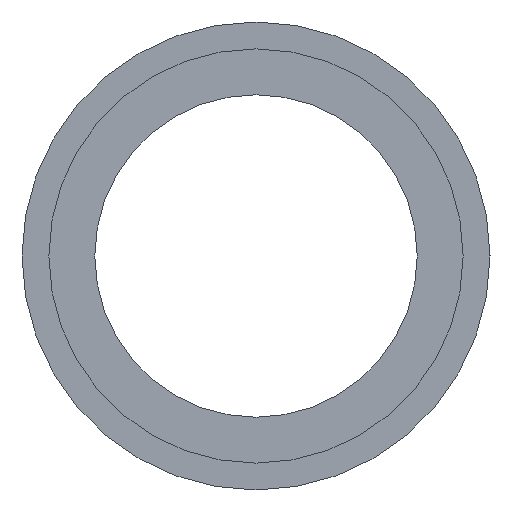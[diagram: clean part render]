
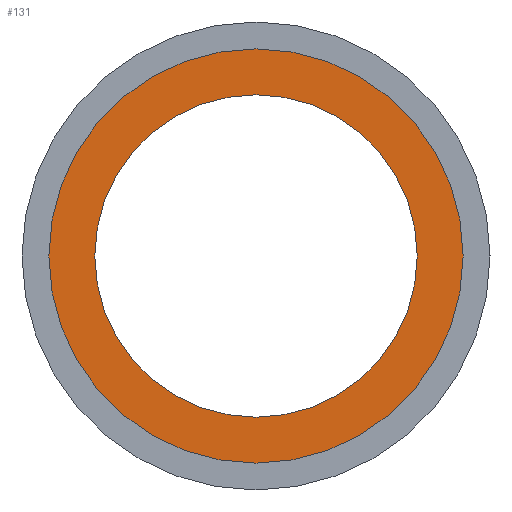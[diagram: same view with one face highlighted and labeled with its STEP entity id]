
A CAD part, left-side view. The second image highlights one B-rep face of the part: STEP entity #131.
In plain terms, the highlighted planar face has unit normal (-1, 0, 0).
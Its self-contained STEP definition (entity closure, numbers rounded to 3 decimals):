
#48 = VERTEX_POINT('',#49);
#49 = CARTESIAN_POINT('',(174.,47.9,0.));
#58 = CYLINDRICAL_SURFACE('',#59,47.9);
#59 = AXIS2_PLACEMENT_3D('',#60,#61,#62);
#60 = CARTESIAN_POINT('',(174.,0.,0.));
#61 = DIRECTION('',(-1.,-0.,-0.));
#62 = DIRECTION('',(0.,1.,0.));
#105 = EDGE_CURVE('',#48,#48,#106,.T.);
#106 = SURFACE_CURVE('',#107,(#112,#119),.PCURVE_S1.);
#107 = CIRCLE('',#108,47.9);
#108 = AXIS2_PLACEMENT_3D('',#109,#110,#111);
#109 = CARTESIAN_POINT('',(174.,0.,0.));
#110 = DIRECTION('',(1.,0.,0.));
#111 = DIRECTION('',(0.,1.,0.));
#112 = PCURVE('',#58,#113);
#113 = DEFINITIONAL_REPRESENTATION('',(#114),#118);
#114 = LINE('',#115,#116);
#115 = CARTESIAN_POINT('',(-0.,0.));
#116 = VECTOR('',#117,1.);
#117 = DIRECTION('',(-1.,0.));
#118 = ( GEOMETRIC_REPRESENTATION_CONTEXT(2) 
PARAMETRIC_REPRESENTATION_CONTEXT() REPRESENTATION_CONTEXT('2D SPACE',''
  ) );
#119 = PCURVE('',#120,#125);
#120 = PLANE('',#121);
#121 = AXIS2_PLACEMENT_3D('',#122,#123,#124);
#122 = CARTESIAN_POINT('',(174.,0.,0.)
  );
#123 = DIRECTION('',(1.,0.,0.));
#124 = DIRECTION('',(-0.,0.,1.));
#125 = DEFINITIONAL_REPRESENTATION('',(#126),#130);
#126 = CIRCLE('',#127,47.9);
#127 = AXIS2_PLACEMENT_2D('',#128,#129);
#128 = CARTESIAN_POINT('',(0.,0.));
#129 = DIRECTION('',(0.,-1.));
#130 = ( GEOMETRIC_REPRESENTATION_CONTEXT(2) 
PARAMETRIC_REPRESENTATION_CONTEXT() REPRESENTATION_CONTEXT('2D SPACE',''
  ) );
#131 = ADVANCED_FACE('',(#132,#135),#120,.F.);
#132 = FACE_BOUND('',#133,.F.);
#133 = EDGE_LOOP('',(#134));
#134 = ORIENTED_EDGE('',*,*,#105,.T.);
#135 = FACE_BOUND('',#136,.F.);
#136 = EDGE_LOOP('',(#137));
#137 = ORIENTED_EDGE('',*,*,#138,.F.);
#138 = EDGE_CURVE('',#139,#139,#141,.T.);
#139 = VERTEX_POINT('',#140);
#140 = CARTESIAN_POINT('',(174.,33.,0.));
#141 = SURFACE_CURVE('',#142,(#147,#154),.PCURVE_S1.);
#142 = CIRCLE('',#143,33.);
#143 = AXIS2_PLACEMENT_3D('',#144,#145,#146);
#144 = CARTESIAN_POINT('',(174.,0.,0.));
#145 = DIRECTION('',(1.,0.,0.));
#146 = DIRECTION('',(0.,1.,0.));
#147 = PCURVE('',#120,#148);
#148 = DEFINITIONAL_REPRESENTATION('',(#149),#153);
#149 = CIRCLE('',#150,33.);
#150 = AXIS2_PLACEMENT_2D('',#151,#152);
#151 = CARTESIAN_POINT('',(0.,0.));
#152 = DIRECTION('',(0.,-1.));
#153 = ( GEOMETRIC_REPRESENTATION_CONTEXT(2) 
PARAMETRIC_REPRESENTATION_CONTEXT() REPRESENTATION_CONTEXT('2D SPACE',''
  ) );
#154 = PCURVE('',#155,#160);
#155 = CYLINDRICAL_SURFACE('',#156,33.);
#156 = AXIS2_PLACEMENT_3D('',#157,#158,#159);
#157 = CARTESIAN_POINT('',(174.,0.,0.));
#158 = DIRECTION('',(-1.,-0.,-0.));
#159 = DIRECTION('',(0.,1.,0.));
#160 = DEFINITIONAL_REPRESENTATION('',(#161),#165);
#161 = LINE('',#162,#163);
#162 = CARTESIAN_POINT('',(-0.,0.));
#163 = VECTOR('',#164,1.);
#164 = DIRECTION('',(-1.,0.));
#165 = ( GEOMETRIC_REPRESENTATION_CONTEXT(2) 
PARAMETRIC_REPRESENTATION_CONTEXT() REPRESENTATION_CONTEXT('2D SPACE',''
  ) );
